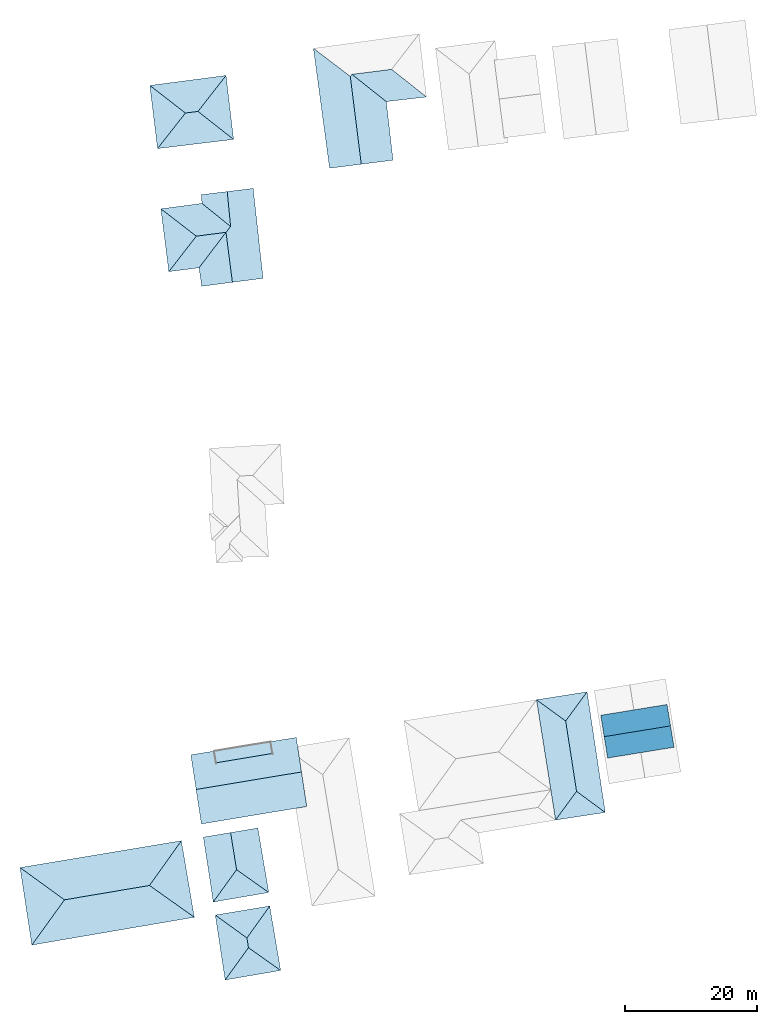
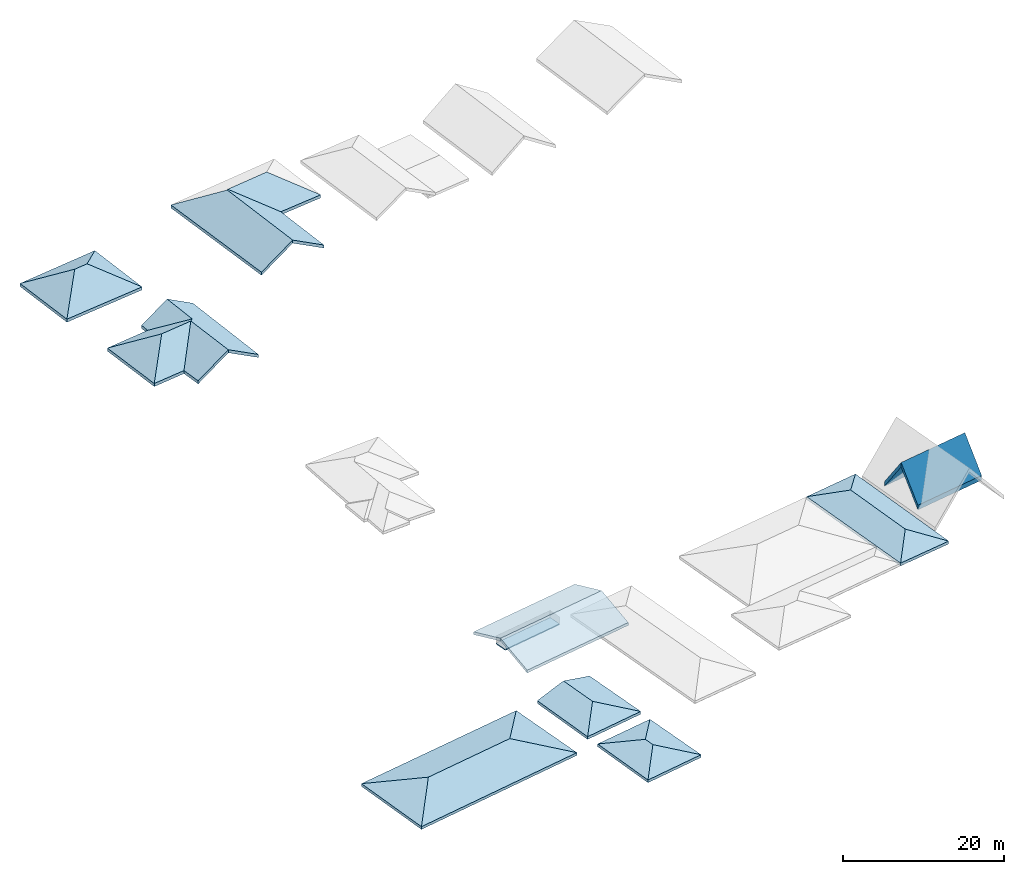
# One storey, part 1 of 5: 33 slabs, 9 elements without a shape of their own.
"""IFC2X3 building model written with IfcOpenShell, lengths in metres."""

from ifc_helpers import new_model, entity, si_unit, converted_unit, derived_unit, direction, frame, frame_2d, origin, place, context, subcontext, project, spatial, polyline, rectangle, outline, extrude, material, layer, layer_set, layer_usage, type_object, element, aggregate, save


model = new_model("IFC2X3")

# Units and contexts
model_context = context("Model", 3, precision=1e-05, world=origin(), true_north=direction((6.123031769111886e-17, 1.0)))
body_context = subcontext(model_context, "Body", "Model", "MODEL_VIEW")
ifc_project = project(units=[si_unit("LENGTHUNIT", "METRE"), si_unit("AREAUNIT", "SQUARE_METRE"), si_unit("VOLUMEUNIT", "CUBIC_METRE"), converted_unit("PLANEANGLEUNIT", "DEGREE", entity("IfcRatioMeasure", 0.017453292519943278), si_unit("PLANEANGLEUNIT", "RADIAN"), dimensions=[0, 0, 0, 0, 0, 0, 0]), si_unit("MASSUNIT", "GRAM", prefix="KILO"), derived_unit("MASSDENSITYUNIT", [(si_unit("MASSUNIT", "GRAM", prefix="KILO"), 1), (si_unit("LENGTHUNIT", "METRE"), -3)]), derived_unit("IONCONCENTRATIONUNIT", [(si_unit("MASSUNIT", "GRAM", prefix="KILO"), 1), (si_unit("LENGTHUNIT", "METRE"), -3)]), derived_unit("MOMENTOFINERTIAUNIT", [(si_unit("LENGTHUNIT", "METRE"), 4)]), si_unit("TIMEUNIT", "SECOND"), si_unit("FREQUENCYUNIT", "HERTZ"), si_unit("THERMODYNAMICTEMPERATUREUNIT", "DEGREE_CELSIUS"), derived_unit("THERMALTRANSMITTANCEUNIT", [(si_unit("MASSUNIT", "GRAM", prefix="KILO"), 1), (si_unit("THERMODYNAMICTEMPERATUREUNIT", "KELVIN"), -1), (si_unit("TIMEUNIT", "SECOND"), -3)]), derived_unit("THERMALCONDUCTANCEUNIT", [(si_unit("MASSUNIT", "GRAM", prefix="KILO"), 1), (si_unit("THERMODYNAMICTEMPERATUREUNIT", "KELVIN"), -1), (si_unit("TIMEUNIT", "SECOND"), -3), (si_unit("LENGTHUNIT", "METRE"), 1)]), derived_unit("VOLUMETRICFLOWRATEUNIT", [(si_unit("LENGTHUNIT", "METRE"), 3), (si_unit("TIMEUNIT", "SECOND"), -1)]), derived_unit("MASSFLOWRATEUNIT", [(si_unit("MASSUNIT", "GRAM", prefix="KILO"), 1), (si_unit("TIMEUNIT", "SECOND"), -1)]), derived_unit("ROTATIONALFREQUENCYUNIT", [(si_unit("TIMEUNIT", "SECOND"), -1)]), si_unit("ELECTRICCURRENTUNIT", "AMPERE"), si_unit("ELECTRICVOLTAGEUNIT", "VOLT"), si_unit("POWERUNIT", "WATT"), si_unit("FORCEUNIT", "NEWTON", prefix="KILO"), si_unit("ILLUMINANCEUNIT", "LUX"), si_unit("LUMINOUSFLUXUNIT", "LUMEN"), si_unit("LUMINOUSINTENSITYUNIT", "CANDELA"), derived_unit("USERDEFINED", [(si_unit("MASSUNIT", "GRAM", prefix="KILO"), -1), (si_unit("LENGTHUNIT", "METRE"), -2), (si_unit("TIMEUNIT", "SECOND"), 3), (si_unit("LUMINOUSFLUXUNIT", "LUMEN"), 1)]), derived_unit("USERDEFINED", [(si_unit("MASSUNIT", "GRAM", prefix="KILO"), 1), (si_unit("TIMEUNIT", "SECOND"), -3), (si_unit("LENGTHUNIT", "METRE"), 3), (si_unit("ELECTRICCURRENTUNIT", "AMPERE"), -2)]), derived_unit("SOUNDPOWERUNIT", [(si_unit("MASSUNIT", "GRAM", prefix="KILO"), 1), (si_unit("TIMEUNIT", "SECOND"), -3), (si_unit("LENGTHUNIT", "METRE"), 2)]), derived_unit("SOUNDPRESSUREUNIT", [(si_unit("MASSUNIT", "GRAM", prefix="KILO"), 1), (si_unit("LENGTHUNIT", "METRE"), -1), (si_unit("TIMEUNIT", "SECOND"), -2)]), derived_unit("LINEARVELOCITYUNIT", [(si_unit("LENGTHUNIT", "METRE"), 1), (si_unit("TIMEUNIT", "SECOND"), -1)]), si_unit("PRESSUREUNIT", "PASCAL"), derived_unit("USERDEFINED", [(si_unit("MASSUNIT", "GRAM", prefix="KILO"), 1), (si_unit("LENGTHUNIT", "METRE"), -2), (si_unit("TIMEUNIT", "SECOND"), -2)]), derived_unit("LINEARFORCEUNIT", [(si_unit("MASSUNIT", "GRAM", prefix="KILO"), 1), (si_unit("TIMEUNIT", "SECOND"), -2)]), derived_unit("PLANARFORCEUNIT", [(si_unit("MASSUNIT", "GRAM", prefix="KILO"), 1), (si_unit("LENGTHUNIT", "METRE"), -1), (si_unit("TIMEUNIT", "SECOND"), -2)]), derived_unit("SPECIFICHEATCAPACITYUNIT", [(si_unit("THERMODYNAMICTEMPERATUREUNIT", "KELVIN"), -1), (si_unit("LENGTHUNIT", "METRE"), 2), (si_unit("TIMEUNIT", "SECOND"), -2)]), derived_unit("HEATINGVALUEUNIT", [(si_unit("LENGTHUNIT", "METRE"), 2), (si_unit("TIMEUNIT", "SECOND"), -2)]), derived_unit("VAPORPERMEABILITYUNIT", [(si_unit("LENGTHUNIT", "METRE"), -1), (si_unit("TIMEUNIT", "SECOND"), 1)]), derived_unit("DYNAMICVISCOSITYUNIT", [(si_unit("MASSUNIT", "GRAM", prefix="KILO"), 1), (si_unit("TIMEUNIT", "SECOND"), -1), (si_unit("LENGTHUNIT", "METRE"), -1)]), derived_unit("THERMALEXPANSIONCOEFFICIENTUNIT", [(si_unit("THERMODYNAMICTEMPERATUREUNIT", "KELVIN"), -1)]), derived_unit("MODULUSOFELASTICITYUNIT", [(si_unit("MASSUNIT", "GRAM", prefix="KILO"), 1), (si_unit("LENGTHUNIT", "METRE"), -1), (si_unit("TIMEUNIT", "SECOND"), -2)]), derived_unit("ISOTHERMALMOISTURECAPACITYUNIT", [(si_unit("LENGTHUNIT", "METRE"), 3), (si_unit("MASSUNIT", "GRAM", prefix="KILO"), -1)]), derived_unit("MOISTUREDIFFUSIVITYUNIT", [(si_unit("TIMEUNIT", "SECOND"), -1), (si_unit("LENGTHUNIT", "METRE"), 2)])], contexts=[model_context])

# Site, building, storey
site_placement = place(None, origin())
site = spatial("IfcSite", under=ifc_project, at=site_placement, Name="Default", CompositionType="ELEMENT")
building_placement = place(site_placement, origin())
building = spatial("IfcBuilding", under=site, at=building_placement, Name="Projeto", CompositionType="ELEMENT")
storey_placement = place(building_placement, frame((0.0, 0.0, 3.0)))
storey = spatial("IfcBuildingStorey", under=building, at=storey_placement, Name="Segundo Pavimento", CompositionType="ELEMENT", Elevation=3.0000000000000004)

# Roof, slabs
ifc_material_1 = material(Name="NBS_Betafence_GreenRAL6005")
ifc_layer_1 = layer(ifc_material_1, 0.4)
ifc_layer_set_1 = layer_set([ifc_layer_1], Name="Telhado básico:Genérico - 400 mm")
roof_1_placement = place(storey_placement, frame((-32.25607136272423, 44.70752945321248, -3.1196152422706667)))
roof_1 = element("IfcRoof", 1, at=roof_1_placement, inside=storey, material=ifc_layer_set_1, Name="Telhado básico:Genérico - 400 mm", ObjectType="Telhado básico:Genérico - 400 mm", ShapeType="NOTDEFINED")
slab_type_1 = type_object("IfcSlabType", Name="Telhado básico:Genérico - 400 mm", PredefinedType="ROOF")
slab_1_placement = place(roof_1_placement, origin())
slab_1 = element("IfcSlab", 2, at=slab_1_placement, type_object=slab_type_1, material=ifc_layer_set_1, Name="Telhado básico:Genérico - 400 mm", ObjectType="Telhado básico:Genérico - 400 mm", PredefinedType="ROOF", context=body_context, shape_type="SweptSolid", body=[
    extrude(outline(polyline([(4.112857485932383, -8.67630914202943), (2.1967310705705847, 4.623266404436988), (-4.260382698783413, 8.653378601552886), (-1.4385702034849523, -9.500946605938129), (4.112857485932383, -8.67630914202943)])), frame((3.7005277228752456, 9.418145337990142, 1.440377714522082), z_axis=(-0.49553065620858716, -0.06670358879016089, 0.8660254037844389), x_axis=(0.8685904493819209, -0.038054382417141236, 0.4940672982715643)), (0.4940672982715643, 0.07679521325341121, 0.8660254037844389), 0.4618802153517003),
])
slab_2_placement = place(roof_1_placement, origin())
slab_2 = element("IfcSlab", 3, at=slab_2_placement, type_object=slab_type_1, material=ifc_layer_set_1, Name="Telhado básico:Genérico - 400 mm", ObjectType="Telhado básico:Genérico - 400 mm", PredefinedType="ROOF", context=body_context, shape_type="SweptSolid", body=[
    extrude(outline(polyline([(3.7518151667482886, -6.3654296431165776), (2.5727983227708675, 2.508355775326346), (-3.441642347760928, 6.462878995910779), (-3.7217962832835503, 6.139494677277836), (-1.804166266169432, -7.15986415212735), (3.7518151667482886, -6.3654296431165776)])), frame((8.838769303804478, 7.696251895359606, 1.4403777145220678), z_axis=(0.4967225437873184, 0.057155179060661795, 0.8660254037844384), x_axis=(0.86790939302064, -0.03271109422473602, -0.4956442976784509)), (-0.4956442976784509, -0.0658538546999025, 0.8660254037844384), 0.4618802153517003),
])
slab_3_placement = place(roof_1_placement, origin())
slab_3 = element("IfcSlab", 4, at=slab_3_placement, type_object=slab_type_1, material=ifc_layer_set_1, Name="Telhado básico:Genérico - 400 mm", ObjectType="Telhado básico:Genérico - 400 mm", PredefinedType="ROOF", context=body_context, shape_type="SweptSolid", body=[
    extrude(outline(polyline([(5.673201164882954, -2.2081597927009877), (0.3692967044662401, 2.8102878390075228), (-5.665423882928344, 2.130112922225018), (-0.4368872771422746, -2.817023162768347), (5.673201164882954, -2.2081597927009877)])), frame((11.507898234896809, 12.571035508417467, 1.3799096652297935), z_axis=(0.05715517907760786, -0.4967225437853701, 0.8660254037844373), x_axis=(0.9983653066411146, 0.028436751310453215, -0.04957888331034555)), (-0.04957888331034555, 0.4975358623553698, 0.8660254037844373), 0.4618802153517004),
])
aggregate(roof_1, [slab_1, slab_2, slab_3])

roof_2_placement = place(storey_placement, frame((-57.09368941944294, 47.6894727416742, -2.888675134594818)))
roof_2 = element("IfcRoof", 5, at=roof_2_placement, inside=storey, material=ifc_layer_set_1, Name="Telhado básico:Genérico - 400 mm", ObjectType="Telhado básico:Genérico - 400 mm", ShapeType="NOTDEFINED")
slab_4_placement = place(roof_2_placement, origin())
slab_4 = element("IfcSlab", 6, at=slab_4_placement, type_object=slab_type_1, material=ifc_layer_set_1, Name="Telhado básico:Genérico - 400 mm", ObjectType="Telhado básico:Genérico - 400 mm", PredefinedType="ROOF", context=body_context, shape_type="SweptSolid", body=[
    extrude(outline(polyline([(5.485155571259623, 3.4492494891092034), (-6.117496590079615, 2.135530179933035), (-0.700123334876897, -2.89587843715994), (1.2199025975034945, -2.6900640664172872), (5.485155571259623, 3.4492494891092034)])), frame((6.104631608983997, 7.937334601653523, 1.4051160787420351), z_axis=(-0.06481928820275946, 0.49578065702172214, 0.8660254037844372), x_axis=(0.9978970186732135, 0.032203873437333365, 0.05625345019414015)), (0.05625345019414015, -0.4968254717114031, 0.8660254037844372), 0.46188021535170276),
])
slab_5_placement = place(roof_2_placement, origin())
slab_5 = element("IfcSlab", 7, at=slab_5_placement, type_object=slab_type_1, material=ifc_layer_set_1, Name="Telhado básico:Genérico - 400 mm", ObjectType="Telhado básico:Genérico - 400 mm", PredefinedType="ROOF", context=body_context, shape_type="SweptSolid", body=[
    extrude(outline(polyline([(-3.452252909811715, 4.393206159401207), (-2.101669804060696, -5.176996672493), (2.7747805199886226, 0.4073486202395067), (-3.452252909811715, 4.393206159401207)])), frame((2.9970631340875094, 5.0914657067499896, 1.4022389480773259), z_axis=(-0.4963070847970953, -0.06065704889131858, 0.8660254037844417), x_axis=(0.8681470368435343, -0.03467675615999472, 0.4950941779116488)), (0.4950941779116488, 0.06986955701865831, 0.8660254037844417), 0.46188021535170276),
])
slab_6_placement = place(roof_2_placement, origin())
slab_6 = element("IfcSlab", 8, at=slab_6_placement, type_object=slab_type_1, material=ifc_layer_set_1, Name="Telhado básico:Genérico - 400 mm", ObjectType="Telhado básico:Genérico - 400 mm", PredefinedType="ROOF", context=body_context, shape_type="SweptSolid", body=[
    extrude(outline(polyline([(-5.49550546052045, -3.3977613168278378), (6.077700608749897, -2.1924683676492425), (0.664945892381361, 2.8946821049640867), (-1.2544655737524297, 2.683213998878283), (-5.49550546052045, -3.3977613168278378)])), frame((6.6582088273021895, 3.1109582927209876, 1.405116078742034), z_axis=(0.05969809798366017, -0.49642334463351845, 0.8660254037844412), x_axis=(0.9982164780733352, 0.0296884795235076, -0.05179244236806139)), (-0.05179244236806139, 0.49731030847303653, 0.8660254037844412), 0.46188021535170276),
])
slab_7_placement = place(roof_2_placement, origin())
slab_7 = element("IfcSlab", 9, at=slab_7_placement, type_object=slab_type_1, material=ifc_layer_set_1, Name="Telhado básico:Genérico - 400 mm", ObjectType="Telhado básico:Genérico - 400 mm", PredefinedType="ROOF", context=body_context, shape_type="SweptSolid", body=[
    extrude(outline(polyline([(-2.7796257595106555, -0.41519719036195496), (3.4451050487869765, -4.468558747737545), (2.1238949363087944, 5.227412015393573), (-2.7796257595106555, -0.41519719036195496)])), frame((9.734699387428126, 5.963119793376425, 1.405116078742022), z_axis=(0.4965544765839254, 0.05859737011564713, 0.866025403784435), x_axis=(0.8680055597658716, -0.0335214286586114, -0.49542170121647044)), (-0.49542170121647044, -0.0675080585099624, 0.866025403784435), 0.46188021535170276),
])
aggregate(roof_2, [slab_4, slab_5, slab_6, slab_7])

roof_3_placement = place(storey_placement, frame((-55.41459787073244, 26.78528063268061, -1.888675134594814)))
roof_3 = element("IfcRoof", 10, at=roof_3_placement, inside=storey, material=ifc_layer_set_1, Name="Telhado básico:Genérico - 400 mm", ObjectType="Telhado básico:Genérico - 400 mm", ShapeType="NOTDEFINED")
slab_8_placement = place(roof_3_placement, origin())
slab_8 = element("IfcSlab", 11, at=slab_8_placement, type_object=slab_type_1, material=ifc_layer_set_1, Name="Telhado básico:Genérico - 400 mm", ObjectType="Telhado básico:Genérico - 400 mm", PredefinedType="ROOF", context=body_context, shape_type="SweptSolid", body=[
    extrude(outline(polyline([(-3.447724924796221, 4.358485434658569), (-2.0607539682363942, -5.161055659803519), (2.7519263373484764, 0.41716124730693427), (-3.447724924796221, 4.358485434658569)])), frame((2.9936058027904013, 7.293618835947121, 1.3916595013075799), z_axis=(-0.49606671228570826, -0.06259246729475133, 0.8660254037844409), x_axis=(0.8682844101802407, -0.03576021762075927, 0.49477610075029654)), (0.49477610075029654, 0.07208751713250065, 0.8660254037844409), 0.46188021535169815),
])
slab_9_placement = place(roof_3_placement, origin())
slab_9 = element("IfcSlab", 12, at=slab_9_placement, type_object=slab_type_1, material=ifc_layer_set_1, Name="Telhado básico:Genérico - 400 mm", ObjectType="Telhado básico:Genérico - 400 mm", PredefinedType="ROOF", context=body_context, shape_type="SweptSolid", body=[
    extrude(outline(polyline([(-4.3489664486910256, -3.285482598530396), (0.24838287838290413, -2.7787400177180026), (4.348966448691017, 3.285482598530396), (-0.16183938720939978, 2.776395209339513), (-4.3489664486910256, -3.285482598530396)])), frame((5.5445771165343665, 5.207128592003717, 1.3946126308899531), z_axis=(0.06312912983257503, -0.495998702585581, 0.8660254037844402), x_axis=(0.9980053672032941, 0.031374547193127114, -0.054780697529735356)), (-0.054780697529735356, 0.4969900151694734, 0.8660254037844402), 0.46188021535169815),
])
slab_10_placement = place(roof_3_placement, origin())
slab_10 = element("IfcSlab", 13, at=slab_10_placement, type_object=slab_type_1, material=ifc_layer_set_1, Name="Telhado básico:Genérico - 400 mm", ObjectType="Telhado básico:Genérico - 400 mm", PredefinedType="ROOF", context=body_context, shape_type="SweptSolid", body=[
    extrude(outline(polyline([(-2.6007636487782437, -1.366774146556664), (-2.1278165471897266, -4.160646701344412), (3.2350446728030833, -3.3335963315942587), (2.1154563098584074, 4.233663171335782), (2.1082541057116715, 4.238110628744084), (-2.6007636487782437, -1.366774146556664)])), frame((8.052676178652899, 4.05828609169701, 1.396202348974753), z_axis=(-0.49471212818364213, -0.07252523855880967, 0.8660254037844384), x_axis=(0.8690569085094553, -0.041285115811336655, 0.49298643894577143)), (0.49298643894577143, 0.08345280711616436, 0.8660254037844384), 0.46188021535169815),
])
slab_11_placement = place(roof_3_placement, origin())
slab_11 = element("IfcSlab", 14, at=slab_11_placement, type_object=slab_type_1, material=ifc_layer_set_1, Name="Telhado básico:Genérico - 400 mm", ObjectType="Telhado básico:Genérico - 400 mm", PredefinedType="ROOF", context=body_context, shape_type="SweptSolid", body=[
    extrude(outline(polyline([(1.8987237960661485, 7.214505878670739), (-2.645909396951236, 6.590686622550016), (-2.0586392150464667, 1.2885276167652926), (-2.8621338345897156, 0.3725496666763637), (-1.7408571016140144, -7.194459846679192), (3.63029853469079, -6.422007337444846), (1.8987237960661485, 7.214505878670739)])), frame((12.374739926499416, 7.728439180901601, 1.3962023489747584), z_axis=(0.4970038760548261, 0.054654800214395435, 0.8660254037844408), x_axis=(0.8677483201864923, -0.031303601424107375, -0.4960170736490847)), (-0.4960170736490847, -0.06298462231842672, 0.8660254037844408), 0.46188021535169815),
])
slab_12_placement = place(roof_3_placement, origin())
slab_12 = element("IfcSlab", 15, at=slab_12_placement, type_object=slab_type_1, material=ifc_layer_set_1, Name="Telhado básico:Genérico - 400 mm", ObjectType="Telhado básico:Genérico - 400 mm", PredefinedType="ROOF", context=body_context, shape_type="SweptSolid", body=[
    extrude(outline(polyline([(-2.4374532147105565, 0.9592519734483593), (2.5771843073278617, -2.434833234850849), (1.9893998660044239, 2.8672687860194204), (-2.562431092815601, 2.2790370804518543), (-2.4374532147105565, 0.9592519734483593)])), frame((8.353968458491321, 11.571515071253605, 1.1680825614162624), z_axis=(-0.4983270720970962, -0.04086721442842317, 0.8660254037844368), x_axis=(0.8669891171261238, -0.02348961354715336, 0.49777314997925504)), (0.49777314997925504, 0.04713694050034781, 0.8660254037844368), 0.46188021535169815),
])
slab_13_placement = place(roof_3_placement, origin())
slab_13 = element("IfcSlab", 16, at=slab_13_placement, type_object=slab_type_1, material=ifc_layer_set_1, Name="Telhado básico:Genérico - 400 mm", ObjectType="Telhado básico:Genérico - 400 mm", PredefinedType="ROOF", context=body_context, shape_type="SweptSolid", body=[
    extrude(outline(polyline([(0.8968086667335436, 2.912962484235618), (-5.357288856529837, 2.198783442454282), (0.03730810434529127, -2.7880026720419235), (4.548764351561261, -2.284711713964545), (4.555036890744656, -2.290395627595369), (5.253762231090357, -1.2921961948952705), (0.8968086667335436, 2.912962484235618)])), frame((5.345832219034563, 10.029729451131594, 1.396202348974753), z_axis=(-0.06536401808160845, 0.49570913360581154, 0.8660254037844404), x_axis=(0.9978614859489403, 0.03247098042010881, 0.056728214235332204)), (0.056728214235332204, -0.4967714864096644, 0.8660254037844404), 0.46188021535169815),
])
aggregate(roof_3, [slab_8, slab_9, slab_10, slab_11, slab_12, slab_13])

roof_4_placement = place(storey_placement, frame((11.369951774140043, -44.83652836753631, 0.8999999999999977)))
roof_4 = element("IfcRoof", 17, at=roof_4_placement, inside=storey, material=ifc_layer_set_1, Name="Telhado básico:Genérico - 400 mm", ObjectType="Telhado básico:Genérico - 400 mm", ShapeType="NOTDEFINED")
slab_14_placement = place(roof_4_placement, origin())
slab_14 = element("IfcSlab", 18, at=slab_14_placement, type_object=slab_type_1, material=ifc_layer_set_1, Name="Telhado básico:Genérico - 400 mm", ObjectType="Telhado básico:Genérico - 400 mm", PredefinedType="ROOF", context=body_context, shape_type="SweptSolid", body=[
    extrude(rectangle(XDim=5.733786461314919, YDim=10.200000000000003, at=frame_2d((1.7763568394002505e-15, 3.552713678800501e-15), x_axis=(0.09282447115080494, -0.9956824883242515))), frame((5.297749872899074, 5.68744635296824, 2.3484214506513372), z_axis=(-0.1314173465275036, 0.8085416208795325, 0.5735764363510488), x_axis=(0.9913271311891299, 0.10718600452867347, 0.07603735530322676)), (0.07603735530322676, -0.8156153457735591, 0.5735764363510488), 0.6973787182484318),
])
slab_15_placement = place(roof_4_placement, origin())
slab_15 = element("IfcSlab", 19, at=slab_15_placement, type_object=slab_type_1, material=ifc_layer_set_1, Name="Telhado básico:Genérico - 400 mm", ObjectType="Telhado básico:Genérico - 400 mm", PredefinedType="ROOF", context=body_context, shape_type="SweptSolid", body=[
    extrude(rectangle(XDim=10.200000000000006, YDim=5.733786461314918, at=frame_2d((2.6645352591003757e-15, -7.771561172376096e-15), x_axis=(-0.9956824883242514, -0.09282447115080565))), frame((5.825369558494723, 2.4412807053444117, 2.3484214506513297), z_axis=(0.1314173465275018, -0.8085416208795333, 0.5735764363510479), x_axis=(0.99132713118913, 0.10718600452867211, -0.07603735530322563)), (-0.07603735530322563, 0.8156153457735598, 0.5735764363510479), 0.6973787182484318),
])
aggregate(roof_4, [slab_14, slab_15])

roof_5_placement = place(storey_placement, frame((1.6180398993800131, -54.24762868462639, 0.8999999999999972)))
roof_5 = element("IfcRoof", 20, at=roof_5_placement, inside=storey, material=ifc_layer_set_1, Name="Telhado básico:Genérico - 400 mm", ObjectType="Telhado básico:Genérico - 400 mm", ShapeType="NOTDEFINED")
slab_16_placement = place(roof_5_placement, origin())
slab_16 = element("IfcSlab", 21, at=slab_16_placement, type_object=slab_type_1, material=ifc_layer_set_1, Name="Telhado básico:Genérico - 400 mm", ObjectType="Telhado básico:Genérico - 400 mm", PredefinedType="ROOF", context=body_context, shape_type="SweptSolid", body=[
    extrude(outline(polyline([(3.5017768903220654, -8.825936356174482), (0.5685831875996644, 9.478201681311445), (0.42899817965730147, 9.295995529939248), (-2.8840800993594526, 4.971295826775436), (-1.1304791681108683, -5.690237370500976), (3.3124571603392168, -8.697780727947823), (3.5017768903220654, -8.825936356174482)])), frame((7.146516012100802, 10.019106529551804, 0.7049532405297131), z_axis=(0.3382071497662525, 0.05092840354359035, 0.9396926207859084), x_axis=(0.9410716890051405, -0.018302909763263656, -0.33771153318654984)), (-0.33771153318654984, -0.05411745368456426, 0.9396926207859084), 0.42567110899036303),
])
slab_17_placement = place(roof_5_placement, origin())
slab_17 = element("IfcSlab", 22, at=slab_17_placement, type_object=slab_type_1, material=ifc_layer_set_1, Name="Telhado básico:Genérico - 400 mm", ObjectType="Telhado básico:Genérico - 400 mm", PredefinedType="ROOF", context=body_context, shape_type="SweptSolid", body=[
    extrude(outline(polyline([(3.5426425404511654, 2.6115897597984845), (-4.149987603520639, 1.4657148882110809), (-3.9705365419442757, 1.3239498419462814), (0.2887705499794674, -2.04087208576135), (3.4110943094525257, 2.4234990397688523), (3.5426425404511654, 2.6115897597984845)])), frame((4.144033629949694, 16.951221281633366, 0.7049532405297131), z_axis=(-0.05354750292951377, 0.33780237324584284, 0.9396926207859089), x_axis=(0.9985653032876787, 0.018114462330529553, 0.050390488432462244)), (0.050390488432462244, -0.3382877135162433, 0.9396926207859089), 0.425671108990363),
])
slab_18_placement = place(roof_5_placement, origin())
slab_18 = element("IfcSlab", 23, at=slab_18_placement, type_object=slab_type_1, material=ifc_layer_set_1, Name="Telhado básico:Genérico - 400 mm", ObjectType="Telhado básico:Genérico - 400 mm", PredefinedType="ROOF", context=body_context, shape_type="SweptSolid", body=[
    extrude(outline(polyline([(-0.2989911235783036, 2.0168659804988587), (-3.361540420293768, -2.3689601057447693), (-3.492039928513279, -2.555846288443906), (-2.1848804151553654, -2.370004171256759), (4.066010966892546, -1.4812994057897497), (3.887613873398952, -1.3383298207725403), (-0.2989911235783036, 2.0168659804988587)])), frame((6.3812535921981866, 2.465359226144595, 0.6973351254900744), z_axis=(0.05116427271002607, -0.33817154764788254, 0.939692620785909), x_axis=(0.9986902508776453, 0.017324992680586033, -0.04814174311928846)), (-0.04814174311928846, 0.3386150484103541, 0.939692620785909), 0.42567110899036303),
])
slab_19_placement = place(roof_5_placement, origin())
slab_19 = element("IfcSlab", 24, at=slab_19_placement, type_object=slab_type_1, material=ifc_layer_set_1, Name="Telhado básico:Genérico - 400 mm", ObjectType="Telhado básico:Genérico - 400 mm", PredefinedType="ROOF", context=body_context, shape_type="SweptSolid", body=[
    extrude(outline(polyline([(-3.5696885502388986, 8.770038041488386), (-0.49517207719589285, -9.455741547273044), (-0.3567039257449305, -9.274680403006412), (2.8928526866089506, -5.0255557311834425), (1.1395226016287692, 5.636022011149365), (-3.3793035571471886, 8.64333537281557), (-3.5696885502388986, 8.770038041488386)])), frame((3.35985176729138, 9.430910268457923, 0.7049532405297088), z_axis=(-0.3378023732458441, -0.05354750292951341, 0.9396926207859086), x_axis=(0.9412170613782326, -0.01921817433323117, 0.33725525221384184)), (0.33725525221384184, 0.05689176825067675, 0.9396926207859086), 0.42567110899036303),
])
aggregate(roof_5, [slab_16, slab_17, slab_18, slab_19])

roof_6_placement = place(storey_placement, frame((-50.86480842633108, -54.85801352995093, 3.8999999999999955)))
roof_6 = element("IfcRoof", 25, at=roof_6_placement, inside=storey, material=ifc_layer_set_1, Name="Telhado básico:Genérico - 400 mm", ObjectType="Telhado básico:Genérico - 400 mm", ShapeType="NOTDEFINED")
slab_20_placement = place(roof_6_placement, origin())
slab_20 = element("IfcSlab", 26, at=slab_20_placement, type_object=slab_type_1, material=ifc_layer_set_1, Name="Telhado básico:Genérico - 400 mm", ObjectType="Telhado básico:Genérico - 400 mm", PredefinedType="ROOF", context=body_context, shape_type="SweptSolid", body=[
    extrude(outline(polyline([(-8.417662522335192, 1.5493281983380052), (-7.616209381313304, -4.0447633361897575), (8.413491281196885, -1.543464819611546), (7.616209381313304, 4.0447633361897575), (-8.417662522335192, 1.5493281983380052)])), frame((8.404507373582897, 9.200497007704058, 0.9663433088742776), z_axis=(-0.05588527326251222, 0.33742349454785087, 0.9396926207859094), x_axis=(0.9984371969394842, 0.01888652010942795, 0.05259717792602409)), (0.05259717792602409, -0.33795164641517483, 0.9396926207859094), 0.4256711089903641),
])
slab_21_placement = place(roof_6_placement, origin())
slab_21 = element("IfcSlab", 27, at=slab_21_placement, type_object=slab_type_1, material=ifc_layer_set_1, Name="Telhado básico:Genérico - 400 mm", ObjectType="Telhado básico:Genérico - 400 mm", PredefinedType="ROOF", context=body_context, shape_type="SweptSolid", body=[
    extrude(outline(polyline([(7.614724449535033, 4.043813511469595), (-8.415202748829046, 1.5439671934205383), (-7.613730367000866, -4.050171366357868), (8.412025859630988, -1.5444639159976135), (7.614724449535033, 4.043813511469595)])), frame((9.2021333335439, 3.9563554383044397, 0.9663433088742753), z_axis=(0.05613679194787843, -0.3373817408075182, 0.9396926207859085), x_axis=(0.9984230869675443, 0.018969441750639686, -0.052834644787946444)), (-0.052834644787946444, 0.3379146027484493, 0.9396926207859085), 0.4256711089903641),
])
aggregate(roof_6, [slab_20, slab_21])

roof_7_placement = place(storey_placement, frame((-48.96300482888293, -66.69694636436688, 0.3999999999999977)))
roof_7 = element("IfcRoof", 28, at=roof_7_placement, inside=storey, material=ifc_layer_set_1, Name="Telhado básico:Genérico - 400 mm", ObjectType="Telhado básico:Genérico - 400 mm", ShapeType="NOTDEFINED")
slab_22_placement = place(roof_7_placement, origin())
slab_22 = element("IfcSlab", 29, at=slab_22_placement, type_object=slab_type_1, material=ifc_layer_set_1, Name="Telhado básico:Genérico - 400 mm", ObjectType="Telhado básico:Genérico - 400 mm", PredefinedType="ROOF", context=body_context, shape_type="SweptSolid", body=[
    extrude(outline(polyline([(-2.9731572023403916, 4.527997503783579), (-2.0350614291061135, -1.1073966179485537), (3.020831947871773, -4.519645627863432), (1.3065336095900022, 5.2660286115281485), (-2.9731572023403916, 4.527997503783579)])), frame((7.0130786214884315, 5.992811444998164, 0.5682691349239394), z_axis=(0.2551912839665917, 0.043182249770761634, 0.9659258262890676), x_axis=(0.9668905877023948, -0.011397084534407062, -0.25493665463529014)), (-0.25493665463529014, -0.04466094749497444, 0.9659258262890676), 0.41411047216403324),
])
slab_23_placement = place(roof_7_placement, origin())
slab_23 = element("IfcSlab", 30, at=slab_23_placement, type_object=slab_type_1, material=ifc_layer_set_1, Name="Telhado básico:Genérico - 400 mm", ObjectType="Telhado básico:Genérico - 400 mm", PredefinedType="ROOF", context=body_context, shape_type="SweptSolid", body=[
    extrude(outline(polyline([(-2.9417873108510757, 4.556329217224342), (-1.3868804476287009, -5.297238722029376), (2.2773395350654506, -0.34567103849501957), (1.3390712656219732, 5.289694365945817), (-2.9417873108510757, 4.556329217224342)])), frame((2.8438635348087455, 5.278610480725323, 0.5682691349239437), z_axis=(-0.25586384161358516, -0.038999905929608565, 0.9659258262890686), x_axis=(0.9667128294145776, -0.010322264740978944, 0.2556555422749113)), (0.2556555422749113, 0.04034280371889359, 0.9659258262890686), 0.41411047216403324),
])
slab_24_placement = place(roof_7_placement, origin())
slab_24 = element("IfcSlab", 31, at=slab_24_placement, type_object=slab_type_1, material=ifc_layer_set_1, Name="Telhado básico:Genérico - 400 mm", ObjectType="Telhado básico:Genérico - 400 mm", PredefinedType="ROOF", context=body_context, shape_type="SweptSolid", body=[
    extrude(outline(polyline([(-3.8612033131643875, -2.8639086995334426), (4.577591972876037, -1.4685080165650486), (-0.315572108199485, 2.173256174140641), (-3.8612033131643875, -2.8639086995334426)])), frame((5.360667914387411, 2.812023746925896, 0.5682691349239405), z_axis=(0.04367156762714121, -0.25510800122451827, 0.9659258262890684), x_axis=(0.9990459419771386, 0.011151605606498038, -0.042223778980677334)), (-0.042223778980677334, 0.2553516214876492, 0.9659258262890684), 0.41411047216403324),
])
aggregate(roof_7, [slab_22, slab_23, slab_24])

roof_8_placement = place(storey_placement, frame((-47.15846197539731, -78.53587919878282, 0.3999999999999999)))
roof_8 = element("IfcRoof", 32, at=roof_8_placement, inside=storey, material=ifc_layer_set_1, Name="Telhado básico:Genérico - 400 mm", ObjectType="Telhado básico:Genérico - 400 mm", ShapeType="NOTDEFINED")
slab_25_placement = place(roof_8_placement, origin())
slab_25 = element("IfcSlab", 33, at=slab_25_placement, type_object=slab_type_1, material=ifc_layer_set_1, Name="Telhado básico:Genérico - 400 mm", ObjectType="Telhado básico:Genérico - 400 mm", PredefinedType="ROOF", context=body_context, shape_type="SweptSolid", body=[
    extrude(outline(polyline([(3.019837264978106, -4.5139677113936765), (1.3055389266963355, 5.271706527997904), (-2.2796365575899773, 0.3615346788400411), (-2.0360561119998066, -1.1017187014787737), (3.019837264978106, -4.5139677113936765)])), frame((7.0140403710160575, 5.9871278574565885, 0.5682691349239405), z_axis=(0.2551912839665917, 0.043182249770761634, 0.9659258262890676), x_axis=(0.9668905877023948, -0.011397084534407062, -0.25493665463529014)), (-0.25493665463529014, -0.04466094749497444, 0.9659258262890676), 0.41411047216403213),
])
slab_26_placement = place(roof_8_placement, origin())
slab_26 = element("IfcSlab", 34, at=slab_26_placement, type_object=slab_type_1, material=ifc_layer_set_1, Name="Telhado básico:Genérico - 400 mm", ObjectType="Telhado básico:Genérico - 400 mm", PredefinedType="ROOF", context=body_context, shape_type="SweptSolid", body=[
    extrude(outline(polyline([(-2.9462400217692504, 4.584546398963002), (-1.3913331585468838, -5.269021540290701), (2.2728868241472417, -0.3174538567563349), (2.029261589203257, 1.145792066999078), (-2.9462400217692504, 4.584546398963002)])), frame((2.848168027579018, 5.250370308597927, 0.5682691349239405), z_axis=(-0.2558638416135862, -0.038999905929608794, 0.9659258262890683), x_axis=(0.9667128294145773, -0.010322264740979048, 0.25565554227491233)), (0.25565554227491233, 0.04034280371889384, 0.9659258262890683), 0.41411047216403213),
])
slab_27_placement = place(roof_8_placement, origin())
slab_27 = element("IfcSlab", 35, at=slab_27_placement, type_object=slab_type_1, material=ifc_layer_set_1, Name="Telhado básico:Genérico - 400 mm", ObjectType="Telhado básico:Genérico - 400 mm", PredefinedType="ROOF", context=body_context, shape_type="SweptSolid", body=[
    extrude(outline(polyline([(-0.3155721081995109, 2.1732561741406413), (-3.8612033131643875, -2.863908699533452), (4.577591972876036, -1.4685080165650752), (-0.3155721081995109, 2.1732561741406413)])), frame((5.3606679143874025, 2.8120237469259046, 0.5682691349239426), z_axis=(0.043671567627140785, -0.2551080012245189, 0.9659258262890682), x_axis=(0.9990459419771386, 0.011151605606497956, -0.04222377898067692)), (-0.04222377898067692, 0.25535162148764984, 0.9659258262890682), 0.41411047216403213),
])
slab_28_placement = place(roof_8_placement, origin())
slab_28 = element("IfcSlab", 36, at=slab_28_placement, type_object=slab_type_1, material=ifc_layer_set_1, Name="Telhado básico:Genérico - 400 mm", ObjectType="Telhado básico:Genérico - 400 mm", PredefinedType="ROOF", context=body_context, shape_type="SweptSolid", body=[
    extrude(outline(polyline([(3.7945036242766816, 2.8272880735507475), (-4.489327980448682, 1.4959110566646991), (0.32489913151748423, -2.1652178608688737), (3.7945036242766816, 2.8272880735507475)])), frame((4.4852753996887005, 8.464085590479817, 0.566642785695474), z_axis=(-0.04248074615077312, 0.25530899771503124, 0.9659258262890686), x_axis=(0.999097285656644, 0.010855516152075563, 0.04107032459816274)), (0.04107032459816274, -0.2555396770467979, 0.9659258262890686), 0.41411047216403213),
])
aggregate(roof_8, [slab_25, slab_26, slab_27, slab_28])

roof_9_placement = place(storey_placement, frame((-76.79919654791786, -73.23693350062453, 0.3999999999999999)))
roof_9 = element("IfcRoof", 37, at=roof_9_placement, inside=storey, material=ifc_layer_set_1, Name="Telhado básico:Genérico - 400 mm", ObjectType="Telhado básico:Genérico - 400 mm", ShapeType="NOTDEFINED")
slab_29_placement = place(roof_9_placement, origin())
slab_29 = element("IfcSlab", 38, at=slab_29_placement, type_object=slab_type_1, material=ifc_layer_set_1, Name="Telhado básico:Genérico - 400 mm", ObjectType="Telhado básico:Genérico - 400 mm", PredefinedType="ROOF", context=body_context, shape_type="SweptSolid", body=[
    extrude(outline(polyline([(4.029262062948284, -5.277895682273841), (1.9951638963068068, 6.333281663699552), (-3.012635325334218, -0.525282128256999), (4.029262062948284, -5.277895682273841)])), frame((22.573732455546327, 9.542724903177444, 0.7914907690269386), z_axis=(0.2551912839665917, 0.0431822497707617, 0.9659258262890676), x_axis=(0.9668905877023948, -0.01139708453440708, -0.25493665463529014)), (-0.25493665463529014, -0.04466094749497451, 0.9659258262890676), 0.41411047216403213),
])
slab_30_placement = place(roof_9_placement, origin())
slab_30 = element("IfcSlab", 39, at=slab_30_placement, type_object=slab_type_1, material=ifc_layer_set_1, Name="Telhado básico:Genérico - 400 mm", ObjectType="Telhado básico:Genérico - 400 mm", PredefinedType="ROOF", context=body_context, shape_type="SweptSolid", body=[
    extrude(outline(polyline([(-3.96422229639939, 5.401039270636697), (-2.108422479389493, -6.3593111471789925), (3.021521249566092, 0.5729319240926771), (-3.96422229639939, 5.401039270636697)])), frame((3.8322645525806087, 6.332370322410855, 0.7955823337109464), z_axis=(-0.25586384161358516, -0.03899990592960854, 0.9659258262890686), x_axis=(0.9667128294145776, -0.010322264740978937, 0.2556555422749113)), (0.2556555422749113, 0.04034280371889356, 0.9659258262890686), 0.41411047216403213),
])
slab_31_placement = place(roof_9_placement, origin())
slab_31 = element("IfcSlab", 40, at=slab_31_placement, type_object=slab_type_1, material=ifc_layer_set_1, Name="Telhado básico:Genérico - 400 mm", ObjectType="Telhado básico:Genérico - 400 mm", PredefinedType="ROOF", context=body_context, shape_type="SweptSolid", body=[
    extrude(outline(polyline([(6.0357925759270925, 4.081639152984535), (-6.884169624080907, 1.9772996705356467), (-11.848087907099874, -5.074780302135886), (12.851039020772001, -0.9906453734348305), (6.0357925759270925, 4.081639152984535)])), frame((13.630809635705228, 5.038667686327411, 0.7955823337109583), z_axis=(0.04367156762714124, -0.25510800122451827, 0.9659258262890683), x_axis=(0.9990459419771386, 0.011151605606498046, -0.042223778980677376)), (-0.042223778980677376, 0.2553516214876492, 0.9659258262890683), 0.41411047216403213),
])
slab_32_placement = place(roof_9_placement, origin())
slab_32 = element("IfcSlab", 41, at=slab_32_placement, type_object=slab_type_1, material=ifc_layer_set_1, Name="Telhado básico:Genérico - 400 mm", ObjectType="Telhado básico:Genérico - 400 mm", PredefinedType="ROOF", context=body_context, shape_type="SweptSolid", body=[
    extrude(outline(polyline([(11.774711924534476, 5.005772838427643), (-12.750264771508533, 1.064119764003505), (-5.99095513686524, -4.0762077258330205), (6.928343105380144, -1.9677958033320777), (11.774711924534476, 5.005772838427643)])), frame((12.738754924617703, 10.879553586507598, 0.7955823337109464), z_axis=(-0.0424807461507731, 0.25530899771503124, 0.9659258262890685), x_axis=(0.999097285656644, 0.010855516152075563, 0.041070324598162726)), (0.041070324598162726, -0.2555396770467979, 0.9659258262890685), 0.41411047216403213),
])
aggregate(roof_9, [slab_29, slab_30, slab_31, slab_32])

# Slab
ifc_material_2 = material(Name="<Unnamed>")
ifc_layer_2 = layer(ifc_material_2, 0.14999999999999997)
ifc_layer_set_2 = layer_set([ifc_layer_2], Name="Piso:Genérico 150 mm")
ifc_layer_usage = layer_usage(ifc_layer_set_2, "AXIS3", "POSITIVE", 0.0)
slab_type_2 = type_object("IfcSlabType", Name="Piso:Genérico 150 mm", PredefinedType="FLOOR", material=ifc_layer_set_2)
slab_33_placement = place(storey_placement, origin())
element("IfcSlab", 42, at=slab_33_placement, inside=storey, type_object=slab_type_2, material=ifc_layer_usage, Name="Piso:Genérico 150 mm", ObjectType="Piso:Genérico 150 mm", PredefinedType="FLOOR", context=body_context, shape_type="SweptSolid", body=[
    extrude(rectangle(XDim=8.69939266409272, YDim=1.8083091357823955, at=frame_2d((3.9968028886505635e-15, 7.771561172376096e-16), x_axis=(1.0, 0.0))), frame((-42.89823396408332, -43.958513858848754, 1.0499999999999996), z_axis=(0.0, 0.0, -1.0), x_axis=(0.9865053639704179, 0.16372894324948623, 0.0)), (0.0, 0.0, 1.0), 0.15),
])

save(model, "model.ifc")
